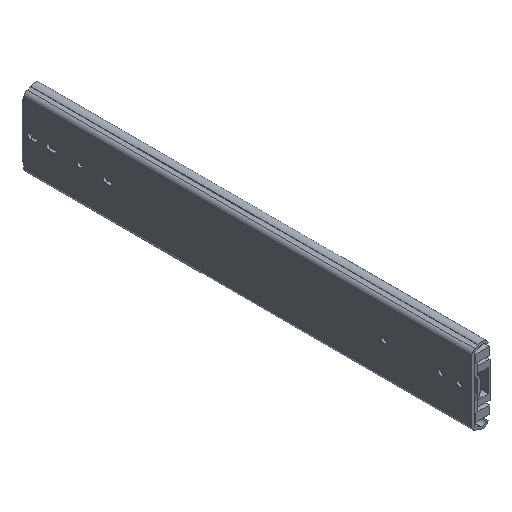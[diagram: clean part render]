
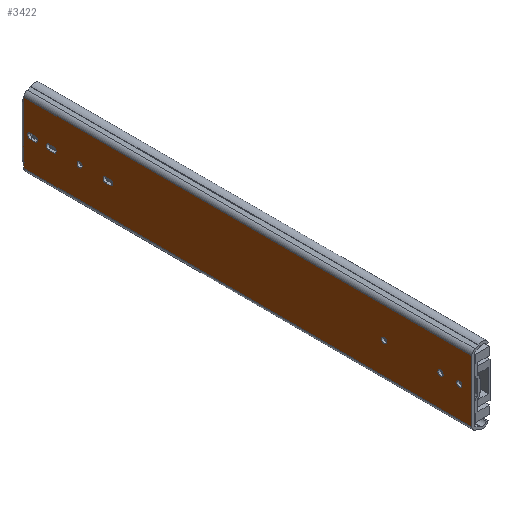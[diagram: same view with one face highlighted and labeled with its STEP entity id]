
A CAD part, isometric view. The second image highlights one B-rep face of the part: STEP entity #3422.
In plain terms, the highlighted planar face has unit normal (-1, 0, 0).
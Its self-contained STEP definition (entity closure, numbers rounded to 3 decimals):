
#299=LINE('',#5837,#638);
#306=LINE('',#5866,#645);
#307=LINE('',#5871,#646);
#322=LINE('',#5918,#661);
#329=LINE('',#5943,#668);
#339=LINE('',#5972,#678);
#342=LINE('',#5994,#681);
#346=LINE('',#6006,#685);
#350=LINE('',#6022,#689);
#357=LINE('',#6041,#696);
#360=LINE('',#6050,#699);
#366=LINE('',#6081,#705);
#372=LINE('',#6097,#711);
#373=LINE('',#6099,#712);
#638=VECTOR('',#4831,1000.);
#645=VECTOR('',#4860,1000.);
#646=VECTOR('',#4865,1000.);
#661=VECTOR('',#4910,1000.);
#668=VECTOR('',#4935,1000.);
#678=VECTOR('',#4967,1000.);
#681=VECTOR('',#4990,1000.);
#685=VECTOR('',#5002,1000.);
#689=VECTOR('',#5020,1000.);
#696=VECTOR('',#5035,1000.);
#699=VECTOR('',#5046,1000.);
#705=VECTOR('',#5072,1000.);
#711=VECTOR('',#5092,1000.);
#712=VECTOR('',#5095,1000.);
#809=PLANE('',#4129);
#1735=ORIENTED_EDGE('',*,*,#2272,.F.);
#1736=ORIENTED_EDGE('',*,*,#2231,.T.);
#1737=ORIENTED_EDGE('',*,*,#2235,.F.);
#1738=ORIENTED_EDGE('',*,*,#2270,.T.);
#1739=ORIENTED_EDGE('',*,*,#2249,.T.);
#1740=ORIENTED_EDGE('',*,*,#2247,.T.);
#1741=ORIENTED_EDGE('',*,*,#2244,.T.);
#1742=ORIENTED_EDGE('',*,*,#2241,.T.);
#1743=ORIENTED_EDGE('',*,*,#2224,.F.);
#1744=ORIENTED_EDGE('',*,*,#2221,.F.);
#1745=ORIENTED_EDGE('',*,*,#2230,.F.);
#1746=ORIENTED_EDGE('',*,*,#2227,.F.);
#1747=ORIENTED_EDGE('',*,*,#2217,.F.);
#1748=ORIENTED_EDGE('',*,*,#2215,.F.);
#1749=ORIENTED_EDGE('',*,*,#2213,.F.);
#1750=ORIENTED_EDGE('',*,*,#2256,.F.);
#1751=ORIENTED_EDGE('',*,*,#2273,.T.);
#1752=ORIENTED_EDGE('',*,*,#2197,.F.);
#1753=ORIENTED_EDGE('',*,*,#2262,.T.);
#1754=ORIENTED_EDGE('',*,*,#2145,.T.);
#1755=ORIENTED_EDGE('',*,*,#2212,.T.);
#1756=ORIENTED_EDGE('',*,*,#2159,.F.);
#1757=ORIENTED_EDGE('',*,*,#2184,.F.);
#1758=ORIENTED_EDGE('',*,*,#2161,.T.);
#2145=EDGE_CURVE('',#2523,#2522,#299,.T.);
#2159=EDGE_CURVE('',#2533,#2532,#306,.T.);
#2161=EDGE_CURVE('',#2536,#2535,#307,.T.);
#2184=EDGE_CURVE('',#2536,#2533,#322,.T.);
#2197=EDGE_CURVE('',#2561,#2562,#329,.T.);
#2212=EDGE_CURVE('',#2522,#2532,#339,.T.);
#2213=EDGE_CURVE('',#2570,#2570,#2735,.T.);
#2215=EDGE_CURVE('',#2572,#2572,#2737,.T.);
#2217=EDGE_CURVE('',#2574,#2574,#2739,.T.);
#2221=EDGE_CURVE('',#2578,#2579,#342,.T.);
#2224=EDGE_CURVE('',#2579,#2581,#2742,.T.);
#2227=EDGE_CURVE('',#2581,#2583,#346,.T.);
#2230=EDGE_CURVE('',#2583,#2578,#2744,.T.);
#2231=EDGE_CURVE('',#2584,#2585,#2745,.T.);
#2235=EDGE_CURVE('',#2588,#2585,#350,.T.);
#2241=EDGE_CURVE('',#2591,#2593,#2748,.T.);
#2244=EDGE_CURVE('',#2595,#2591,#357,.T.);
#2247=EDGE_CURVE('',#2597,#2595,#2750,.T.);
#2249=EDGE_CURVE('',#2593,#2597,#360,.T.);
#2256=EDGE_CURVE('',#2604,#2604,#2753,.T.);
#2262=EDGE_CURVE('',#2561,#2523,#366,.T.);
#2270=EDGE_CURVE('',#2588,#2611,#2756,.T.);
#2272=EDGE_CURVE('',#2584,#2611,#372,.T.);
#2273=EDGE_CURVE('',#2535,#2562,#373,.T.);
#2522=VERTEX_POINT('',#5836);
#2523=VERTEX_POINT('',#5838);
#2532=VERTEX_POINT('',#5863);
#2533=VERTEX_POINT('',#5865);
#2535=VERTEX_POINT('',#5870);
#2536=VERTEX_POINT('',#5872);
#2561=VERTEX_POINT('',#5942);
#2562=VERTEX_POINT('',#5944);
#2570=VERTEX_POINT('',#5975);
#2572=VERTEX_POINT('',#5980);
#2574=VERTEX_POINT('',#5985);
#2578=VERTEX_POINT('',#5993);
#2579=VERTEX_POINT('',#5995);
#2581=VERTEX_POINT('',#6001);
#2583=VERTEX_POINT('',#6007);
#2584=VERTEX_POINT('',#6014);
#2585=VERTEX_POINT('',#6015);
#2588=VERTEX_POINT('',#6023);
#2591=VERTEX_POINT('',#6030);
#2593=VERTEX_POINT('',#6034);
#2595=VERTEX_POINT('',#6039);
#2597=VERTEX_POINT('',#6045);
#2604=VERTEX_POINT('',#6066);
#2611=VERTEX_POINT('',#6094);
#2735=CIRCLE('',#4083,2.6);
#2737=CIRCLE('',#4086,2.6);
#2739=CIRCLE('',#4089,2.6);
#2742=CIRCLE('',#4094,2.6);
#2744=CIRCLE('',#4098,2.6);
#2745=CIRCLE('',#4100,2.6);
#2748=CIRCLE('',#4105,2.619);
#2750=CIRCLE('',#4109,2.619);
#2753=CIRCLE('',#4115,2.6);
#2756=CIRCLE('',#4126,2.6);
#2958=EDGE_LOOP('',(#1735,#1736,#1737,#1738));
#2959=EDGE_LOOP('',(#1739,#1740,#1741,#1742));
#2960=EDGE_LOOP('',(#1743,#1744,#1745,#1746));
#2961=EDGE_LOOP('',(#1747));
#2962=EDGE_LOOP('',(#1748));
#2963=EDGE_LOOP('',(#1749));
#2964=EDGE_LOOP('',(#1750));
#2965=EDGE_LOOP('',(#1751,#1752,#1753,#1754,#1755,#1756,#1757,#1758));
#3173=FACE_BOUND('',#2958,.T.);
#3174=FACE_BOUND('',#2959,.T.);
#3175=FACE_BOUND('',#2960,.T.);
#3176=FACE_BOUND('',#2961,.T.);
#3177=FACE_BOUND('',#2962,.T.);
#3178=FACE_BOUND('',#2963,.T.);
#3179=FACE_BOUND('',#2964,.T.);
#3180=FACE_BOUND('',#2965,.T.);
#3422=ADVANCED_FACE('',(#3173,#3174,#3175,#3176,#3177,#3178,#3179,#3180),
#809,.F.);
#4083=AXIS2_PLACEMENT_3D('',#5974,#4970,#4971);
#4086=AXIS2_PLACEMENT_3D('',#5979,#4976,#4977);
#4089=AXIS2_PLACEMENT_3D('',#5984,#4982,#4983);
#4094=AXIS2_PLACEMENT_3D('',#6000,#4996,#4997);
#4098=AXIS2_PLACEMENT_3D('',#6011,#5008,#5009);
#4100=AXIS2_PLACEMENT_3D('',#6013,#5012,#5013);
#4105=AXIS2_PLACEMENT_3D('',#6035,#5029,#5030);
#4109=AXIS2_PLACEMENT_3D('',#6047,#5041,#5042);
#4115=AXIS2_PLACEMENT_3D('',#6065,#5059,#5060);
#4126=AXIS2_PLACEMENT_3D('',#6093,#5087,#5088);
#4129=AXIS2_PLACEMENT_3D('',#6101,#5097,#5098);
#4831=DIRECTION('',(0.,-1.,0.));
#4860=DIRECTION('',(0.,1.,0.));
#4865=DIRECTION('',(0.,1.,0.));
#4910=DIRECTION('',(0.,0.,-1.));
#4935=DIRECTION('',(0.,-1.,0.));
#4967=DIRECTION('',(0.,0.,-1.));
#4970=DIRECTION('',(-1.,0.,0.));
#4971=DIRECTION('',(0.,1.,0.));
#4976=DIRECTION('',(-1.,0.,0.));
#4977=DIRECTION('',(0.,1.,0.));
#4982=DIRECTION('',(-1.,0.,0.));
#4983=DIRECTION('',(0.,1.,0.));
#4990=DIRECTION('',(0.,-1.,0.));
#4996=DIRECTION('',(-1.,0.,0.));
#4997=DIRECTION('',(0.,1.,0.));
#5002=DIRECTION('',(0.,1.,0.));
#5008=DIRECTION('',(-1.,0.,0.));
#5009=DIRECTION('',(0.,-1.,0.));
#5012=DIRECTION('',(1.,0.,0.));
#5013=DIRECTION('',(0.,0.,-1.));
#5020=DIRECTION('',(0.,1.,0.));
#5029=DIRECTION('',(1.,0.,0.));
#5030=DIRECTION('',(0.,0.,-1.));
#5035=DIRECTION('',(0.,1.,0.));
#5041=DIRECTION('',(1.,0.,0.));
#5042=DIRECTION('',(0.,0.,-1.));
#5046=DIRECTION('',(0.,-1.,0.));
#5059=DIRECTION('',(-1.,0.,0.));
#5060=DIRECTION('',(0.,1.,0.));
#5072=DIRECTION('',(0.,0.,-1.));
#5087=DIRECTION('',(1.,0.,0.));
#5088=DIRECTION('',(0.,0.,-1.));
#5092=DIRECTION('',(0.,-1.,0.));
#5095=DIRECTION('',(0.,0.,-1.));
#5097=DIRECTION('',(1.,0.,0.));
#5098=DIRECTION('',(0.,0.,-1.));
#5836=CARTESIAN_POINT('',(0.,453.2,-26.15));
#5837=CARTESIAN_POINT('',(0.,453.7,-26.15));
#5838=CARTESIAN_POINT('',(0.,453.7,-26.15));
#5863=CARTESIAN_POINT('',(0.,453.2,-31.142));
#5865=CARTESIAN_POINT('',(0.,0.,-31.142));
#5866=CARTESIAN_POINT('',(0.,0.,-31.142));
#5870=CARTESIAN_POINT('',(0.,453.2,31.132));
#5871=CARTESIAN_POINT('',(0.,0.,31.132));
#5872=CARTESIAN_POINT('',(0.,0.,31.132));
#5918=CARTESIAN_POINT('',(0.,0.,31.132));
#5942=CARTESIAN_POINT('',(0.,453.7,26.15));
#5943=CARTESIAN_POINT('',(0.,453.7,26.15));
#5944=CARTESIAN_POINT('',(0.,453.2,26.15));
#5972=CARTESIAN_POINT('',(0.,453.2,31.132));
#5974=CARTESIAN_POINT('',(0.,31.75,-0.006));
#5975=CARTESIAN_POINT('',(0.,34.35,-0.006));
#5979=CARTESIAN_POINT('',(0.,88.9,-0.006));
#5980=CARTESIAN_POINT('',(0.,91.5,-0.006));
#5984=CARTESIAN_POINT('',(0.,396.9,-0.006));
#5985=CARTESIAN_POINT('',(0.,399.5,-0.006));
#5993=CARTESIAN_POINT('',(0.,370.6,-2.605));
#5994=CARTESIAN_POINT('',(0.,370.6,-2.605));
#5995=CARTESIAN_POINT('',(0.,366.,-2.605));
#6000=CARTESIAN_POINT('',(0.,366.,-0.005));
#6001=CARTESIAN_POINT('',(0.,366.,2.595));
#6006=CARTESIAN_POINT('',(0.,370.6,2.595));
#6007=CARTESIAN_POINT('',(0.,370.6,2.595));
#6011=CARTESIAN_POINT('',(0.,370.6,-0.005));
#6013=CARTESIAN_POINT('',(0.,446.8,-0.006));
#6014=CARTESIAN_POINT('',(0.,446.8,-2.606));
#6015=CARTESIAN_POINT('',(0.,446.8,2.594));
#6022=CARTESIAN_POINT('',(0.,0.,2.594));
#6023=CARTESIAN_POINT('',(0.,442.2,2.594));
#6030=CARTESIAN_POINT('',(0.,428.099,-2.606));
#6034=CARTESIAN_POINT('',(0.,428.099,2.594));
#6035=CARTESIAN_POINT('',(0.,427.781,-0.006));
#6039=CARTESIAN_POINT('',(0.,422.901,-2.606));
#6041=CARTESIAN_POINT('',(0.,0.,-2.606));
#6045=CARTESIAN_POINT('',(0.,422.901,2.594));
#6047=CARTESIAN_POINT('',(0.,423.219,-0.006));
#6050=CARTESIAN_POINT('',(0.,0.,2.594));
#6065=CARTESIAN_POINT('',(0.,12.7,-0.006));
#6066=CARTESIAN_POINT('',(0.,15.3,-0.006));
#6081=CARTESIAN_POINT('',(0.,453.7,26.15));
#6093=CARTESIAN_POINT('',(0.,442.2,-0.006));
#6094=CARTESIAN_POINT('',(0.,442.2,-2.606));
#6097=CARTESIAN_POINT('',(0.,0.,-2.606));
#6099=CARTESIAN_POINT('',(0.,453.2,31.132));
#6101=CARTESIAN_POINT('',(0.,0.,31.132));
